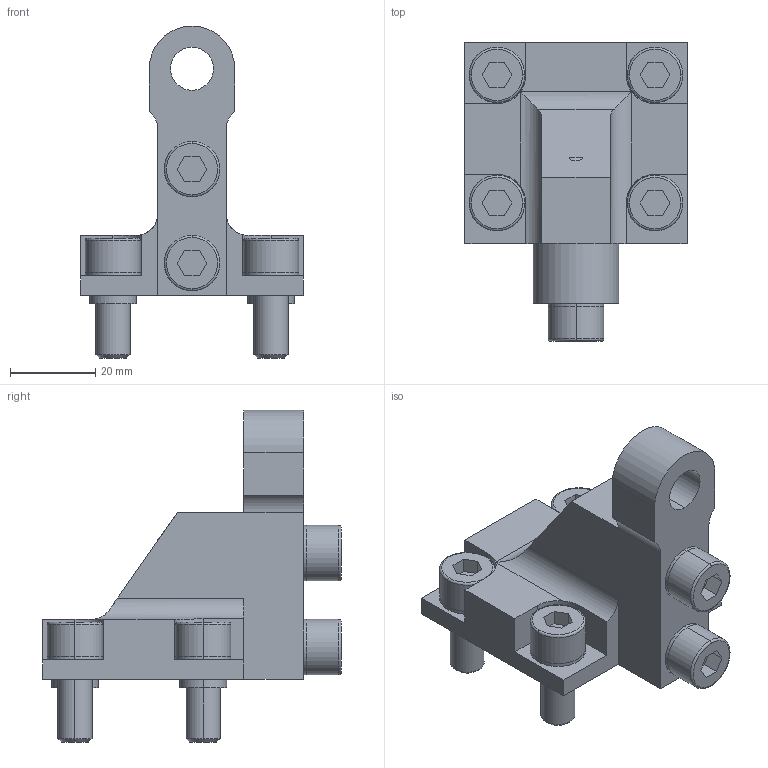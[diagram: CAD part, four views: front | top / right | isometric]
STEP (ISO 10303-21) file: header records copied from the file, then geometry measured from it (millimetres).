
FILE_DESCRIPTION (( 'STEP AP214' ), '1' );
FILE_NAME ('867.1-52-M12-E-NC.step', '2023-08-01T13:22:22', ( '' ), ( '' ), 'SwSTEP 2.0', 'SolidWorks 2022', '' );
FILE_SCHEMA (( 'AUTOMOTIVE_DESIGN' ));
Length unit declared in the file: millimetre
Products named in the file (1): 867.1-52-M12-E-NC
Bounding box: 52 x 69.8 x 77.7 mm (x, y, z)
Volume: 59267 mm3; surface area: 17531.4 mm2
Topology: 1 solids, 3 shells, 178 faces, 413 edges, 268 vertices
Faces by surface type: plane 96, cylinder 61, torus 12, cone 9
Entity records: 6574 total; most frequent: CARTESIAN_POINT 911, DIRECTION 910, ORIENTED_EDGE 826, EDGE_CURVE 413, AXIS2_PLACEMENT_3D 331, VERTEX_POINT 268, VECTOR 248, LINE 248
